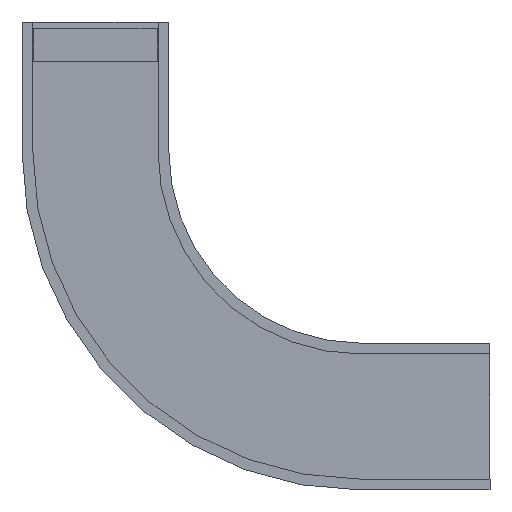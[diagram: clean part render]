
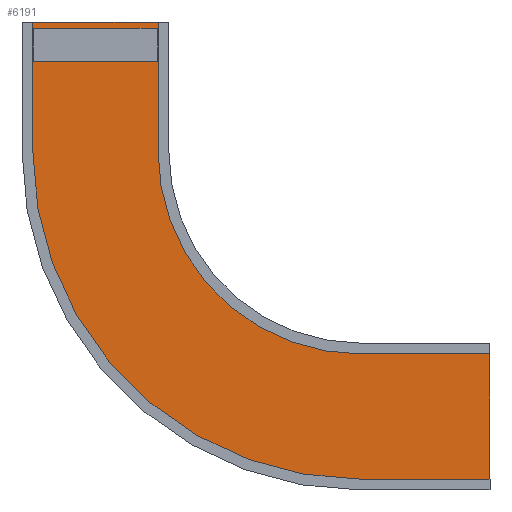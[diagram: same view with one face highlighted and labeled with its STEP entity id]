
A CAD part, front view. The second image highlights one B-rep face of the part: STEP entity #6191.
In plain terms, the highlighted planar face has unit normal (0, -1, 0).
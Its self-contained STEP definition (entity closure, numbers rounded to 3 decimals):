
#41 = VERTEX_POINT ( 'NONE', #3422 ) ;
#71 = VERTEX_POINT ( 'NONE', #2866 ) ;
#100 = VERTEX_POINT ( 'NONE', #3221 ) ;
#407 = PLANE ( 'NONE',  #5672 ) ;
#413 = CARTESIAN_POINT ( 'NONE',  ( 111., -57.525, -200. ) ) ;
#490 = DIRECTION ( 'NONE',  ( 1., 0., 0. ) ) ;
#717 = DIRECTION ( 'NONE',  ( 0., -1., 0. ) ) ;
#816 = DIRECTION ( 'NONE',  ( 0., -1., 0. ) ) ;
#818 = CARTESIAN_POINT ( 'NONE',  ( 410., -57.525, -200. ) ) ;
#834 = CARTESIAN_POINT ( 'NONE',  ( 410., -57.525, -721. ) ) ;
#869 = DIRECTION ( 'NONE',  ( 1., 0., 0. ) ) ;
#893 = DIRECTION ( 'NONE',  ( 0., 0., -1. ) ) ;
#910 = DIRECTION ( 'NONE',  ( 0., 0., 1. ) ) ;
#915 = CARTESIAN_POINT ( 'NONE',  ( -111., -57.525, -200. ) ) ;
#1223 = EDGE_LOOP ( 'NONE', ( #1569, #1519, #1613, #1628, #1602, #1609, #1601, #1564 ) ) ;
#1519 = ORIENTED_EDGE ( 'NONE', *, *, #3887, .F. ) ;
#1564 = ORIENTED_EDGE ( 'NONE', *, *, #3481, .T. ) ;
#1569 = ORIENTED_EDGE ( 'NONE', *, *, #3668, .F. ) ;
#1601 = ORIENTED_EDGE ( 'NONE', *, *, #3871, .F. ) ;
#1602 = ORIENTED_EDGE ( 'NONE', *, *, #3653, .T. ) ;
#1609 = ORIENTED_EDGE ( 'NONE', *, *, #3446, .F. ) ;
#1613 = ORIENTED_EDGE ( 'NONE', *, *, #3606, .T. ) ;
#1628 = ORIENTED_EDGE ( 'NONE', *, *, #3865, .T. ) ;
#2244 = DIRECTION ( 'NONE',  ( 1., 0., 0. ) ) ;
#2247 = CARTESIAN_POINT ( 'NONE',  ( 111., -57.525, 0. ) ) ;
#2279 = LINE ( 'NONE', #834, #2280 ) ;
#2280 = VECTOR ( 'NONE', #869, 1000. ) ;
#2440 = CIRCLE ( 'NONE', #5895, 299. ) ;
#2463 = VECTOR ( 'NONE', #910, 1000. ) ;
#2536 = FACE_OUTER_BOUND ( 'NONE', #1223, .T. ) ;
#2633 = LINE ( 'NONE', #915, #2463 ) ;
#2805 = VERTEX_POINT ( 'NONE', #3016 ) ;
#2819 = VERTEX_POINT ( 'NONE', #2910 ) ;
#2866 = CARTESIAN_POINT ( 'NONE',  ( 610., -57.525, -721. ) ) ;
#2910 = CARTESIAN_POINT ( 'NONE',  ( 111., -57.525, -200. ) ) ;
#2982 = CARTESIAN_POINT ( 'NONE',  ( 410., -57.525, -499. ) ) ;
#2991 = DIRECTION ( 'NONE',  ( 1., 0., 0. ) ) ;
#2996 = CARTESIAN_POINT ( 'NONE',  ( -111., -57.525, -200. ) ) ;
#3016 = CARTESIAN_POINT ( 'NONE',  ( 410., -57.525, -721. ) ) ;
#3076 = CARTESIAN_POINT ( 'NONE',  ( 111., -57.525, 0. ) ) ;
#3080 = CARTESIAN_POINT ( 'NONE',  ( -111., -57.525, 0. ) ) ;
#3221 = CARTESIAN_POINT ( 'NONE',  ( 610., -57.525, -499. ) ) ;
#3358 = VERTEX_POINT ( 'NONE', #2996 ) ;
#3399 = VERTEX_POINT ( 'NONE', #3076 ) ;
#3422 = CARTESIAN_POINT ( 'NONE',  ( 410., -57.525, -499. ) ) ;
#3423 = VERTEX_POINT ( 'NONE', #3080 ) ;
#3446 = EDGE_CURVE ( 'NONE', #41, #100, #4407, .T. ) ;
#3481 = EDGE_CURVE ( 'NONE', #2819, #3399, #4424, .T. ) ;
#3606 = EDGE_CURVE ( 'NONE', #3358, #2805, #4215, .T. ) ;
#3653 = EDGE_CURVE ( 'NONE', #71, #100, #4503, .T. ) ;
#3668 = EDGE_CURVE ( 'NONE', #3423, #3399, #4139, .T. ) ;
#3865 = EDGE_CURVE ( 'NONE', #2805, #71, #2279, .T. ) ;
#3871 = EDGE_CURVE ( 'NONE', #2819, #41, #2440, .T. ) ;
#3887 = EDGE_CURVE ( 'NONE', #3358, #3423, #2633, .T. ) ;
#4139 = LINE ( 'NONE', #2247, #4581 ) ;
#4215 = CIRCLE ( 'NONE', #5769, 521. ) ;
#4241 = VECTOR ( 'NONE', #2991, 1000. ) ;
#4407 = LINE ( 'NONE', #2982, #4241 ) ;
#4424 = LINE ( 'NONE', #5204, #4498 ) ;
#4464 = VECTOR ( 'NONE', #5258, 1000. ) ;
#4498 = VECTOR ( 'NONE', #5304, 1000. ) ;
#4503 = LINE ( 'NONE', #5370, #4464 ) ;
#4581 = VECTOR ( 'NONE', #2244, 1000. ) ;
#5083 = CARTESIAN_POINT ( 'NONE',  ( 410., -57.525, -200. ) ) ;
#5084 = DIRECTION ( 'NONE',  ( 0., -1., 0. ) ) ;
#5085 = DIRECTION ( 'NONE',  ( 0., 0., -1. ) ) ;
#5204 = CARTESIAN_POINT ( 'NONE',  ( 111., -57.525, -200. ) ) ;
#5258 = DIRECTION ( 'NONE',  ( 0., 0., 1. ) ) ;
#5304 = DIRECTION ( 'NONE',  ( 0., 0., 1. ) ) ;
#5370 = CARTESIAN_POINT ( 'NONE',  ( 610., -57.525, -499. ) ) ;
#5672 = AXIS2_PLACEMENT_3D ( 'NONE', #413, #717, #490 ) ;
#5769 = AXIS2_PLACEMENT_3D ( 'NONE', #5083, #5084, #5085 ) ;
#5895 = AXIS2_PLACEMENT_3D ( 'NONE', #818, #816, #893 ) ;
#6191 = ADVANCED_FACE ( 'NONE', ( #2536 ), #407, .T. ) ;
